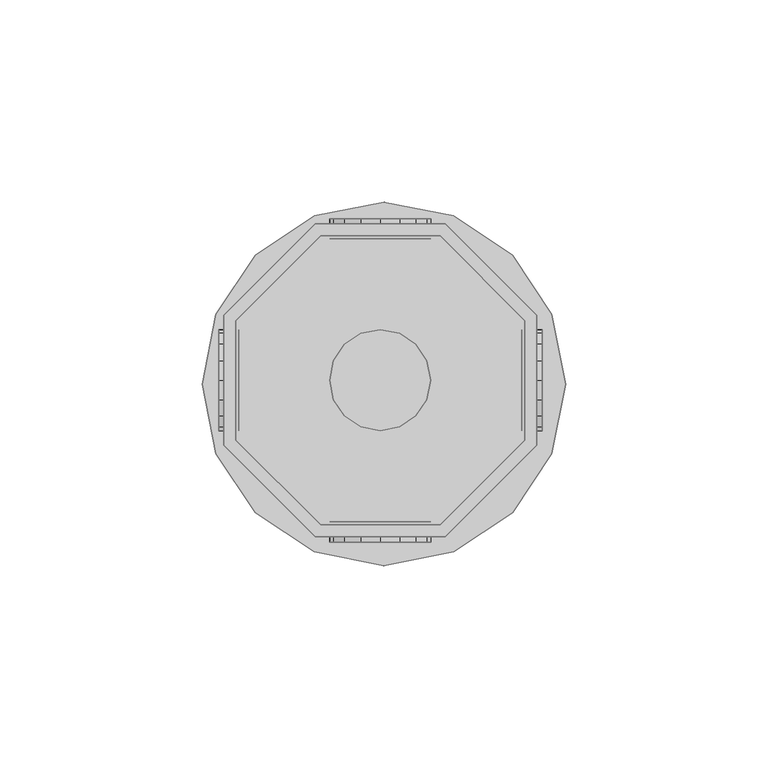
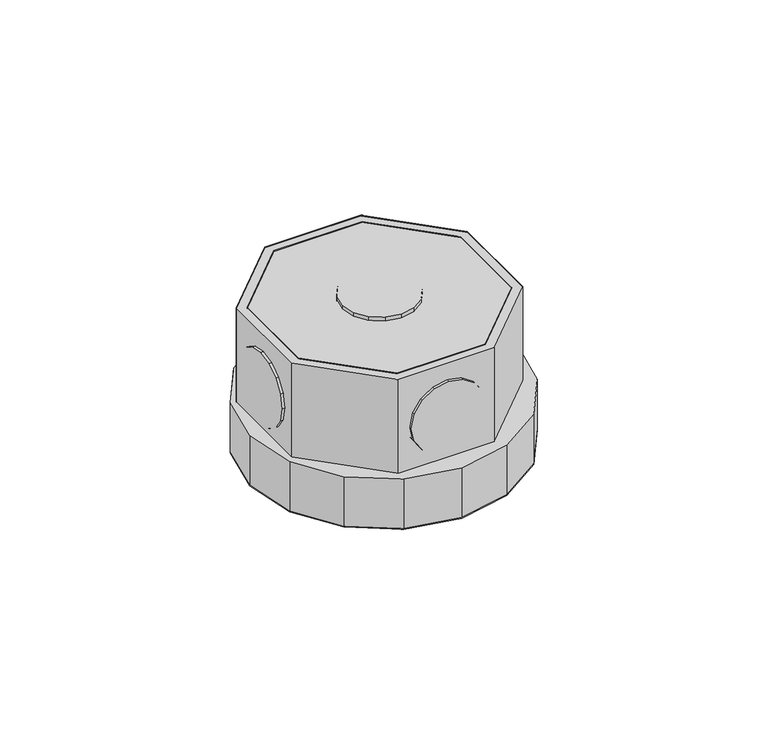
"""IFC4 building model written with IfcOpenShell, lengths in millimetres: light fixture geometry,  213564 :  213564."""

from ifc_helpers import new_model, si_unit, origin, place, context, project, spatial, triangles, source, transform, mapped, element, save


def light_fixture_c420c2ca(model_context):
    return source(origin(), model_context, "Body", "Tessellation", [
        triangles([(31645.0009827, 19107.9999481, 2924.5999741), (31615.4004639, 19107.9999481, 2975.400071), (31615.4004639, 19107.9999481, 2924.5999741), (31645.0009827, 19107.9999481, 2975.400071), (31646.2009094, 19033.4998444, 2924.5999741), (31614.1005432, 19033.4998444, 2975.400071), (31614.1005432, 19033.4998444, 2924.5999741), (31646.2009094, 19033.4998444, 2975.400071), (31594.3994202, 19087.0000671, 2975.400071), (31594.3994202, 19087.0000671, 2924.5999741), (31668.8995239, 19056.1996216, 2924.5999741), (31668.8995239, 19056.1996216, 2975.400071), (31594.3994202, 19057.3995483, 2975.400071), (31594.3994202, 19057.3995483, 2924.5999741), (31668.8995239, 19088.2999878, 2924.5999741), (31668.8995239, 19088.2999878, 2975.400071), (31615.4004639, 19036.4996613, 2975.400071), (31615.4004639, 19036.4996613, 2924.5999741), (31646.2009094, 19110.999765, 2924.5999741), (31646.2009094, 19110.999765, 2975.400071), (31645.0009827, 19036.4996613, 2924.5999741), (31645.0009827, 19036.4996613, 2975.400071), (31614.1005432, 19110.999765, 2975.400071), (31614.1005432, 19110.999765, 2924.5999741), (31665.899707, 19057.3995483, 2924.5999741), (31665.899707, 19057.3995483, 2975.400071), (31591.3996033, 19088.2999878, 2975.400071), (31591.3996033, 19088.2999878, 2924.5999741), (31591.3996033, 19056.1996216, 2975.400071), (31665.899707, 19087.0000671, 2975.400071), (31665.899707, 19087.0000671, 2924.5999741), (31591.3996033, 19056.1996216, 2924.5999741), (31594.3994202, 19057.3995483, 2972.3999634), (31615.4004639, 19036.4996613, 2972.3999634), (31645.0009827, 19036.4996613, 2972.3999634), (31665.899707, 19057.3995483, 2972.3999634), (31665.899707, 19087.0000671, 2972.3999634), (31645.0009827, 19107.9999481, 2972.3999634), (31615.4004639, 19107.9999481, 2972.3999634), (31594.3994202, 19087.0000671, 2972.3999634), (31591.3996033, 19088.2999878, 2942.4000504), (31614.1005432, 19110.999765, 2942.4000504), (31646.2009094, 19110.999765, 2942.4000504), (31668.8995239, 19088.2999878, 2942.4000504), (31668.8995239, 19056.1996216, 2942.4000504), (31646.2009094, 19033.4998444, 2942.4000504), (31614.1005432, 19033.4998444, 2942.4000504), (31591.3996033, 19056.1996216, 2942.4000504), (31613.8005615, 19029.8000702, 2942.4000504), (31589.4997192, 19054.0997498, 2942.4000504), (31599.1991272, 19039.4994781, 2942.4000504), (31586.0999268, 19071.2998627, 2942.4000504), (31589.4997192, 19088.5999695, 2942.4000504), (31599.1991272, 19103.2002411, 2942.4000504), (31613.8005615, 19112.899649, 2942.4000504), (31631.0995056, 19116.2994415, 2942.4000504), (31648.3007812, 19112.899649, 2942.4000504), (31672.5992981, 19088.5999695, 2942.4000504), (31662.8998901, 19103.2002411, 2942.4000504), (31631.0995056, 19026.3002838, 2942.4000504), (31648.3007812, 19029.8000702, 2942.4000504), (31662.8998901, 19039.4994781, 2942.4000504), (31672.5992981, 19054.0997498, 2942.4000504), (31676.0990845, 19071.2998627, 2942.4000504), (31589.4997192, 19054.0997498, 2924.5999741), (31613.8005615, 19029.8000702, 2924.5999741), (31599.1991272, 19039.4994781, 2924.5999741), (31586.0999268, 19071.2998627, 2924.5999741), (31589.4997192, 19088.5999695, 2924.5999741), (31599.1991272, 19103.2002411, 2924.5999741), (31613.8005615, 19112.899649, 2924.5999741), (31631.0995056, 19116.2994415, 2924.5999741), (31648.3007812, 19112.899649, 2924.5999741), (31672.5992981, 19088.5999695, 2924.5999741), (31662.8998901, 19103.2002411, 2924.5999741), (31631.0995056, 19026.3002838, 2924.5999741), (31648.3007812, 19029.8000702, 2924.5999741), (31662.8998901, 19039.4994781, 2924.5999741), (31672.5992981, 19054.0997498, 2924.5999741), (31676.0990845, 19071.2998627, 2924.5999741), (31618.6002686, 19112.1996918, 2952.6000092), (31625.3998535, 19112.1996918, 2945.9001274), (31621.3001038, 19112.1996918, 2948.5999626), (31617.7003235, 19112.1996918, 2957.4000069), (31630.1995605, 19112.1996918, 2944.8998978), (31618.6002686, 19112.1996918, 2962.2000046), (31634.9992676, 19112.1996918, 2945.9001274), (31621.3001038, 19112.1996918, 2966.2000511), (31638.9990234, 19112.1996918, 2948.5999626), (31625.3998535, 19112.1996918, 2968.8998863), (31641.6988586, 19112.1996918, 2952.6000092), (31630.1995605, 19112.1996918, 2969.900116), (31642.701123, 19112.1996918, 2957.4000069), (31634.9992676, 19112.1996918, 2968.8998863), (31641.6988586, 19112.1996918, 2962.2000046), (31638.9990234, 19112.1996918, 2966.2000511), (31625.3998535, 19107.1999969, 2945.9001274), (31618.6002686, 19107.1999969, 2952.6000092), (31621.3001038, 19107.1999969, 2948.5999626), (31630.1995605, 19107.1999969, 2944.8998978), (31617.7003235, 19107.1999969, 2957.4000069), (31634.9992676, 19107.1999969, 2945.9001274), (31618.6002686, 19107.1999969, 2962.2000046), (31638.9990234, 19107.1999969, 2948.5999626), (31621.3001038, 19107.1999969, 2966.2000511), (31625.3998535, 19107.1999969, 2968.8998863), (31641.6988586, 19107.1999969, 2952.6000092), (31630.1995605, 19107.1999969, 2969.900116), (31642.701123, 19107.1999969, 2957.4000069), (31634.9992676, 19107.1999969, 2968.8998863), (31641.6988586, 19107.1999969, 2962.2000046), (31638.9990234, 19107.1999969, 2966.2000511), (31618.6002686, 19037.1996185, 2952.6000092), (31625.3998535, 19037.1996185, 2945.9001274), (31621.3001038, 19037.1996185, 2948.5999626), (31617.7003235, 19037.1996185, 2957.4000069), (31630.1995605, 19037.1996185, 2944.8998978), (31618.6002686, 19037.1996185, 2962.2000046), (31634.9992676, 19037.1996185, 2945.9001274), (31621.3001038, 19037.1996185, 2966.2000511), (31638.9990234, 19037.1996185, 2948.5999626), (31625.3998535, 19037.1996185, 2968.8998863), (31641.6988586, 19037.1996185, 2952.6000092), (31630.1995605, 19037.1996185, 2969.900116), (31642.701123, 19037.1996185, 2957.4000069), (31634.9992676, 19037.1996185, 2968.8998863), (31641.6988586, 19037.1996185, 2962.2000046), (31638.9990234, 19037.1996185, 2966.2000511), (31625.3998535, 19032.1999237, 2945.9001274), (31618.6002686, 19032.1999237, 2952.6000092), (31621.3001038, 19032.1999237, 2948.5999626), (31630.1995605, 19032.1999237, 2944.8998978), (31617.7003235, 19032.1999237, 2957.4000069), (31634.9992676, 19032.1999237, 2945.9001274), (31618.6002686, 19032.1999237, 2962.2000046), (31638.9990234, 19032.1999237, 2948.5999626), (31621.3001038, 19032.1999237, 2966.2000511), (31625.3998535, 19032.1999237, 2968.8998863), (31641.6988586, 19032.1999237, 2952.6000092), (31630.1995605, 19032.1999237, 2969.900116), (31642.701123, 19032.1999237, 2957.4000069), (31634.9992676, 19032.1999237, 2968.8998863), (31641.6988586, 19032.1999237, 2962.2000046), (31638.9990234, 19032.1999237, 2966.2000511), (31595.1993713, 19067.4001007, 2945.9001274), (31595.1993713, 19060.7005096, 2952.6000092), (31595.1993713, 19063.4003448, 2948.5999626), (31595.1993713, 19072.1998077, 2944.8998978), (31595.1993713, 19059.7005707, 2957.4000069), (31595.1993713, 19076.9995148, 2945.9001274), (31595.1993713, 19060.7005096, 2962.2000046), (31595.1993713, 19081.1004272, 2948.5999626), (31595.1993713, 19063.4003448, 2966.2000511), (31595.1993713, 19067.4001007, 2968.8998863), (31595.1993713, 19083.8002625, 2952.6000092), (31595.1993713, 19072.1998077, 2969.900116), (31595.1993713, 19084.7002075, 2957.4000069), (31595.1993713, 19076.9995148, 2968.8998863), (31595.1993713, 19083.8002625, 2962.2000046), (31595.1993713, 19081.1004272, 2966.2000511), (31590.1996765, 19060.7005096, 2952.6000092), (31590.1996765, 19067.4001007, 2945.9001274), (31590.1996765, 19063.4003448, 2948.5999626), (31590.1996765, 19059.7005707, 2957.4000069), (31590.1996765, 19072.1998077, 2944.8998978), (31590.1996765, 19060.7005096, 2962.2000046), (31590.1996765, 19076.9995148, 2945.9001274), (31590.1996765, 19063.4003448, 2966.2000511), (31590.1996765, 19081.1004272, 2948.5999626), (31590.1996765, 19067.4001007, 2968.8998863), (31590.1996765, 19083.8002625, 2952.6000092), (31590.1996765, 19072.1998077, 2969.900116), (31590.1996765, 19084.7002075, 2957.4000069), (31590.1996765, 19076.9995148, 2968.8998863), (31590.1996765, 19083.8002625, 2962.2000046), (31590.1996765, 19081.1004272, 2966.2000511), (31670.1994446, 19067.4001007, 2945.9001274), (31670.1994446, 19060.7005096, 2952.6000092), (31670.1994446, 19063.4003448, 2948.5999626), (31670.1994446, 19072.1998077, 2944.8998978), (31670.1994446, 19059.7005707, 2957.4000069), (31670.1994446, 19076.9995148, 2945.9001274), (31670.1994446, 19060.7005096, 2962.2000046), (31670.1994446, 19081.1004272, 2948.5999626), (31670.1994446, 19063.4003448, 2966.2000511), (31670.1994446, 19067.4001007, 2968.8998863), (31670.1994446, 19083.8002625, 2952.6000092), (31670.1994446, 19072.1998077, 2969.900116), (31670.1994446, 19084.7002075, 2957.4000069), (31670.1994446, 19076.9995148, 2968.8998863), (31670.1994446, 19083.8002625, 2962.2000046), (31670.1994446, 19081.1004272, 2966.2000511), (31665.1997498, 19060.7005096, 2952.6000092), (31665.1997498, 19067.4001007, 2945.9001274), (31665.1997498, 19063.4003448, 2948.5999626), (31665.1997498, 19059.7005707, 2957.4000069), (31665.1997498, 19072.1998077, 2944.8998978), (31665.1997498, 19060.7005096, 2962.2000046), (31665.1997498, 19076.9995148, 2945.9001274), (31665.1997498, 19063.4003448, 2966.2000511), (31665.1997498, 19081.1004272, 2948.5999626), (31665.1997498, 19067.4001007, 2968.8998863), (31665.1997498, 19083.8002625, 2952.6000092), (31665.1997498, 19072.1998077, 2969.900116), (31665.1997498, 19084.7002075, 2957.4000069), (31665.1997498, 19076.9995148, 2968.8998863), (31665.1997498, 19083.8002625, 2962.2000046), (31665.1997498, 19081.1004272, 2966.2000511), (31625.3998535, 19060.7005096, 2976.9999733), (31618.6002686, 19067.4001007, 2976.9999733), (31621.3001038, 19063.4003448, 2976.9999733), (31617.7003235, 19072.1998077, 2976.9999733), (31630.1995605, 19059.7005707, 2976.9999733), (31618.6002686, 19076.9995148, 2976.9999733), (31634.9992676, 19060.7005096, 2976.9999733), (31621.3001038, 19081.1004272, 2976.9999733), (31638.9990234, 19063.4003448, 2976.9999733), (31625.3998535, 19083.8002625, 2976.9999733), (31641.6988586, 19067.4001007, 2976.9999733), (31630.1995605, 19084.7002075, 2976.9999733), (31642.701123, 19072.1998077, 2976.9999733), (31634.9992676, 19083.8002625, 2976.9999733), (31641.6988586, 19076.9995148, 2976.9999733), (31638.9990234, 19081.1004272, 2976.9999733), (31618.6002686, 19067.4001007, 2971.9999878), (31625.3998535, 19060.7005096, 2971.9999878), (31621.3001038, 19063.4003448, 2971.9999878), (31617.7003235, 19072.1998077, 2971.9999878), (31630.1995605, 19059.7005707, 2971.9999878), (31618.6002686, 19076.9995148, 2971.9999878), (31634.9992676, 19060.7005096, 2971.9999878), (31621.3001038, 19081.1004272, 2971.9999878), (31638.9990234, 19063.4003448, 2971.9999878), (31625.3998535, 19083.8002625, 2971.9999878), (31641.6988586, 19067.4001007, 2971.9999878), (31630.1995605, 19084.7002075, 2971.9999878), (31642.701123, 19072.1998077, 2971.9999878), (31634.9992676, 19083.8002625, 2971.9999878), (31641.6988586, 19076.9995148, 2971.9999878), (31638.9990234, 19081.1004272, 2971.9999878)], [[1, 2, 3], [2, 1, 4], [5, 6, 7], [6, 5, 8], [3, 9, 10], [9, 3, 2], [11, 8, 5], [8, 11, 12], [10, 13, 14], [13, 10, 9], [15, 12, 11], [12, 15, 16], [14, 17, 18], [17, 14, 13], [19, 16, 15], [16, 19, 20], [17, 21, 18], [21, 17, 22], [23, 19, 24], [19, 23, 20], [22, 25, 21], [25, 22, 26], [27, 24, 28], [24, 27, 23], [6, 13, 29], [29, 13, 27], [27, 13, 9], [27, 9, 23], [23, 9, 2], [23, 2, 4], [23, 4, 20], [20, 4, 30], [8, 17, 6], [6, 17, 13], [17, 8, 22], [12, 22, 8], [22, 12, 26], [30, 26, 12], [16, 30, 12], [20, 30, 16], [30, 1, 31], [1, 30, 4], [6, 32, 7], [32, 6, 29], [32, 14, 7], [28, 14, 32], [14, 28, 10], [24, 10, 28], [10, 24, 3], [1, 3, 24], [19, 1, 24], [31, 1, 19], [7, 18, 5], [14, 18, 7], [5, 18, 21], [5, 21, 11], [11, 21, 25], [11, 25, 31], [11, 31, 15], [15, 31, 19], [26, 31, 25], [31, 26, 30], [29, 28, 32], [28, 29, 27], [17, 33, 34], [33, 17, 13], [35, 17, 34], [17, 35, 22], [36, 22, 35], [22, 36, 26], [37, 26, 36], [26, 37, 30], [38, 30, 37], [30, 38, 4], [2, 38, 39], [38, 2, 4], [17, 9, 13], [9, 17, 22], [9, 22, 2], [2, 22, 26], [2, 26, 4], [4, 26, 30], [13, 40, 33], [40, 13, 9], [40, 34, 33], [35, 34, 40], [35, 40, 39], [35, 39, 36], [36, 39, 38], [36, 38, 37], [9, 39, 40], [39, 9, 2], [24, 41, 28], [41, 24, 42], [19, 42, 24], [42, 19, 43], [44, 19, 15], [19, 44, 43], [45, 15, 11], [15, 45, 44], [46, 11, 5], [11, 46, 45], [47, 5, 7], [5, 47, 46], [32, 47, 7], [47, 32, 48], [28, 48, 32], [48, 28, 41], [49, 50, 51], [48, 50, 49], [50, 48, 52], [41, 52, 48], [52, 41, 53], [53, 41, 54], [42, 54, 41], [54, 42, 55], [55, 42, 43], [55, 43, 56], [56, 43, 57], [57, 43, 44], [57, 44, 58], [57, 58, 59], [47, 49, 60], [49, 47, 48], [47, 60, 46], [61, 46, 60], [46, 61, 62], [46, 62, 45], [45, 62, 63], [44, 45, 63], [44, 63, 64], [44, 64, 58], [65, 66, 67], [66, 65, 32], [68, 32, 65], [32, 68, 28], [28, 68, 69], [70, 28, 69], [28, 70, 24], [71, 24, 70], [19, 24, 71], [19, 71, 72], [73, 19, 72], [19, 73, 15], [74, 15, 73], [74, 73, 75], [76, 66, 7], [32, 7, 66], [5, 76, 7], [76, 5, 77], [77, 5, 78], [11, 78, 5], [78, 11, 79], [79, 11, 15], [79, 15, 80], [80, 15, 74], [57, 75, 73], [75, 57, 59], [56, 73, 72], [73, 56, 57], [55, 72, 71], [72, 55, 56], [54, 71, 70], [71, 54, 55], [53, 70, 69], [70, 53, 54], [52, 69, 68], [69, 52, 53], [50, 68, 65], [68, 50, 52], [51, 65, 67], [65, 51, 50], [66, 51, 67], [51, 66, 49], [76, 49, 66], [49, 76, 60], [77, 60, 76], [60, 77, 61], [78, 61, 77], [61, 78, 62], [79, 62, 78], [62, 79, 63], [80, 63, 79], [63, 80, 64], [75, 58, 74], [58, 75, 59], [74, 64, 80], [64, 74, 58], [81, 82, 83], [82, 81, 84], [85, 82, 84], [85, 84, 86], [87, 85, 86], [87, 86, 88], [87, 88, 89], [89, 88, 90], [89, 90, 91], [91, 90, 92], [91, 92, 93], [93, 92, 94], [93, 94, 95], [95, 94, 96], [97, 98, 99], [98, 97, 100], [101, 98, 100], [101, 100, 102], [103, 101, 102], [103, 102, 104], [103, 104, 105], [105, 104, 106], [106, 104, 107], [106, 107, 108], [108, 107, 109], [108, 109, 110], [110, 109, 111], [110, 111, 112], [87, 104, 102], [104, 87, 89], [85, 102, 100], [102, 85, 87], [82, 100, 97], [100, 82, 85], [83, 97, 99], [97, 83, 82], [98, 83, 99], [83, 98, 81], [101, 81, 98], [81, 101, 84], [103, 84, 101], [84, 103, 86], [105, 86, 103], [86, 105, 88], [106, 88, 105], [88, 106, 90], [108, 90, 106], [90, 108, 92], [110, 92, 108], [92, 110, 94], [112, 94, 110], [94, 112, 96], [95, 112, 111], [112, 95, 96], [93, 111, 109], [111, 93, 95], [89, 107, 104], [107, 89, 91], [91, 109, 107], [109, 91, 93], [113, 114, 115], [114, 113, 116], [117, 114, 116], [117, 116, 118], [119, 117, 118], [119, 118, 120], [119, 120, 121], [121, 120, 122], [121, 122, 123], [123, 122, 124], [123, 124, 125], [125, 124, 126], [125, 126, 127], [127, 126, 128], [129, 130, 131], [130, 129, 132], [133, 130, 132], [133, 132, 134], [135, 133, 134], [135, 134, 136], [135, 136, 137], [137, 136, 138], [138, 136, 139], [138, 139, 140], [140, 139, 141], [140, 141, 142], [142, 141, 143], [142, 143, 144], [119, 136, 134], [136, 119, 121], [117, 134, 132], [134, 117, 119], [114, 132, 129], [132, 114, 117], [115, 129, 131], [129, 115, 114], [130, 115, 131], [115, 130, 113], [133, 113, 130], [113, 133, 116], [135, 116, 133], [116, 135, 118], [137, 118, 135], [118, 137, 120], [138, 120, 137], [120, 138, 122], [140, 122, 138], [122, 140, 124], [142, 124, 140], [124, 142, 126], [144, 126, 142], [126, 144, 128], [127, 144, 143], [144, 127, 128], [125, 143, 141], [143, 125, 127], [121, 139, 136], [139, 121, 123], [123, 141, 139], [141, 123, 125], [145, 146, 147], [146, 145, 148], [149, 146, 148], [149, 148, 150], [151, 149, 150], [151, 150, 152], [151, 152, 153], [153, 152, 154], [154, 152, 155], [154, 155, 156], [156, 155, 157], [156, 157, 158], [158, 157, 159], [158, 159, 160], [161, 162, 163], [162, 161, 164], [165, 162, 164], [165, 164, 166], [167, 165, 166], [167, 166, 168], [169, 167, 168], [169, 168, 170], [169, 170, 171], [171, 170, 172], [171, 172, 173], [173, 172, 174], [173, 174, 175], [175, 174, 176], [158, 176, 174], [176, 158, 160], [156, 174, 172], [174, 156, 158], [154, 172, 170], [172, 154, 156], [153, 170, 168], [170, 153, 154], [151, 168, 166], [168, 151, 153], [149, 166, 164], [166, 149, 151], [146, 164, 161], [164, 146, 149], [147, 161, 163], [161, 147, 146], [162, 147, 163], [147, 162, 145], [165, 145, 162], [145, 165, 148], [167, 148, 165], [148, 167, 150], [169, 150, 167], [150, 169, 152], [171, 152, 169], [152, 171, 155], [173, 155, 171], [155, 173, 157], [176, 159, 175], [159, 176, 160], [175, 157, 173], [157, 175, 159], [177, 178, 179], [178, 177, 180], [181, 178, 180], [181, 180, 182], [183, 181, 182], [183, 182, 184], [183, 184, 185], [185, 184, 186], [186, 184, 187], [186, 187, 188], [188, 187, 189], [188, 189, 190], [190, 189, 191], [190, 191, 192], [193, 194, 195], [194, 193, 196], [197, 194, 196], [197, 196, 198], [199, 197, 198], [199, 198, 200], [201, 199, 200], [201, 200, 202], [201, 202, 203], [203, 202, 204], [203, 204, 205], [205, 204, 206], [205, 206, 207], [207, 206, 208], [190, 208, 206], [208, 190, 192], [188, 206, 204], [206, 188, 190], [186, 204, 202], [204, 186, 188], [185, 202, 200], [202, 185, 186], [183, 200, 198], [200, 183, 185], [181, 198, 196], [198, 181, 183], [178, 196, 193], [196, 178, 181], [179, 193, 195], [193, 179, 178], [194, 179, 195], [179, 194, 177], [197, 177, 194], [177, 197, 180], [199, 180, 197], [180, 199, 182], [201, 182, 199], [182, 201, 184], [203, 184, 201], [184, 203, 187], [205, 187, 203], [187, 205, 189], [208, 191, 207], [191, 208, 192], [207, 189, 205], [189, 207, 191], [209, 210, 211], [212, 210, 209], [212, 209, 213], [214, 212, 213], [214, 213, 215], [216, 214, 215], [216, 215, 217], [216, 217, 218], [218, 217, 219], [218, 219, 220], [220, 219, 221], [220, 221, 222], [222, 221, 223], [222, 223, 224], [225, 226, 227], [226, 225, 228], [229, 226, 228], [229, 228, 230], [231, 229, 230], [231, 230, 232], [231, 232, 233], [233, 232, 234], [233, 234, 235], [235, 234, 236], [235, 236, 237], [237, 236, 238], [237, 238, 239], [239, 238, 240], [222, 240, 238], [240, 222, 224], [220, 238, 236], [238, 220, 222], [218, 236, 234], [236, 218, 220], [216, 234, 232], [234, 216, 218], [214, 232, 230], [232, 214, 216], [212, 230, 228], [230, 212, 214], [210, 228, 225], [228, 210, 212], [211, 225, 227], [225, 211, 210], [226, 211, 227], [211, 226, 209], [229, 209, 226], [209, 229, 213], [231, 213, 229], [213, 231, 215], [233, 215, 231], [215, 233, 217], [235, 217, 233], [217, 235, 219], [237, 219, 235], [219, 237, 221], [240, 223, 239], [223, 240, 224], [239, 221, 237], [221, 239, 223]], closed=False),
    ])


if __name__ == "__main__":
    model = new_model("IFC4")
    model_context = context("Model", 3, world=origin())
    ifc_project = project(units=[si_unit("LENGTHUNIT", "METRE", prefix="MILLI")], contexts=[model_context])
    site = spatial("IfcSite", under=ifc_project)
    building = spatial("IfcBuilding", under=site)
    placement = place(None, origin())
    light_fixture_shape = light_fixture_c420c2ca(model_context)
    element("IfcLightFixture", 1, ObjectType=" 213564 :  213564", at=placement, inside=building, context=model_context, shape_type="MappedRepresentation", body=[
        mapped(light_fixture_shape, transform((0.0, 0.0, 0.0), x_axis=(1.0, 0.0, 0.0), y_axis=(0.0, 1.0, 0.0), z_axis=(0.0, 0.0, 1.0))),
    ])
    save(model, "model.ifc")
